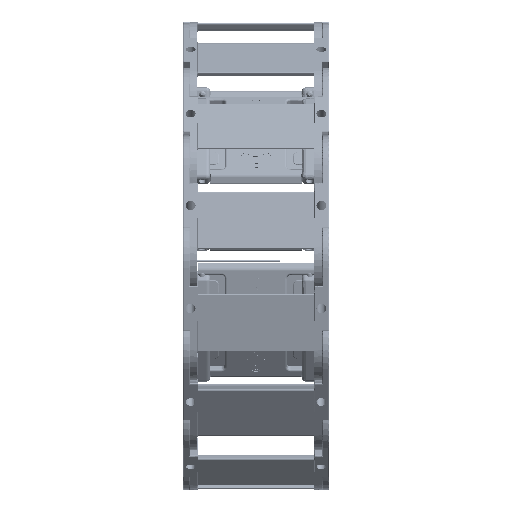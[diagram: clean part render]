
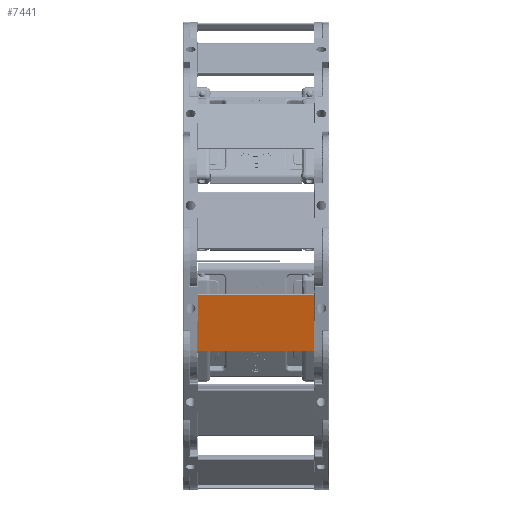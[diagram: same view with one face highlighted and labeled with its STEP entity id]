
A CAD part, front view. The second image highlights one B-rep face of the part: STEP entity #7441.
In plain terms, the highlighted planar face has unit normal (0, -0.978, -0.208) as drawn and (0.132, 0, 0.991) by its records, which use the part's own axes.
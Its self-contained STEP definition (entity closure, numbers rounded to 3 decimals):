
#292=CARTESIAN_POINT('',(47.817,8.875,146.031));
#293=VERTEX_POINT('',#292);
#310=CARTESIAN_POINT('',(76.561,8.875,142.19));
#311=VERTEX_POINT('',#310);
#319=CARTESIAN_POINT('',(47.817,8.875,146.031));
#320=DIRECTION('',(0.991,0.,-0.132));
#321=VECTOR('',#320,29.);
#322=LINE('',#319,#321);
#323=EDGE_CURVE('',#293,#311,#322,.T.);
#7292=CARTESIAN_POINT('',(76.561,67.875,142.19));
#7293=VERTEX_POINT('',#7292);
#7301=CARTESIAN_POINT('',(76.561,67.875,142.19));
#7302=DIRECTION('',(0.0,-1.0,0.0));
#7303=VECTOR('',#7302,59.);
#7304=LINE('',#7301,#7303);
#7305=EDGE_CURVE('',#7293,#311,#7304,.T.);
#7418=CARTESIAN_POINT('',(77.58,20.375,142.054));
#7419=DIRECTION('',(0.132,0.,0.991));
#7420=DIRECTION('',(0.0,1.0,0.0));
#7421=AXIS2_PLACEMENT_3D('',#7418,#7419,#7420);
#7422=PLANE('',#7421);
#7423=ORIENTED_EDGE('',*,*,#7305,.F.);
#7424=CARTESIAN_POINT('',(47.817,67.875,146.031));
#7425=VERTEX_POINT('',#7424);
#7426=CARTESIAN_POINT('',(47.817,67.875,146.031));
#7427=DIRECTION('',(0.991,0.,-0.132));
#7428=VECTOR('',#7427,29.);
#7429=LINE('',#7426,#7428);
#7430=EDGE_CURVE('',#7425,#7293,#7429,.T.);
#7431=ORIENTED_EDGE('',*,*,#7430,.F.);
#7432=CARTESIAN_POINT('',(47.817,8.875,146.031));
#7433=DIRECTION('',(0.0,1.0,0.0));
#7434=VECTOR('',#7433,59.);
#7435=LINE('',#7432,#7434);
#7436=EDGE_CURVE('',#293,#7425,#7435,.T.);
#7437=ORIENTED_EDGE('',*,*,#7436,.F.);
#7438=ORIENTED_EDGE('',*,*,#323,.T.);
#7439=EDGE_LOOP('',(#7423,#7431,#7437,#7438));
#7440=FACE_OUTER_BOUND('',#7439,.T.);
#7441=ADVANCED_FACE('',(#7440),#7422,.T.);
